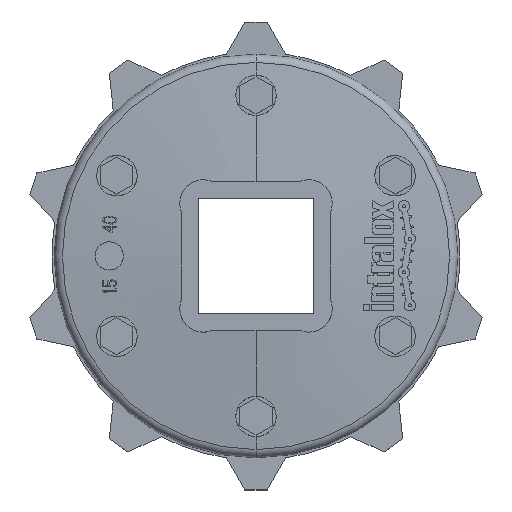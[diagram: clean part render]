
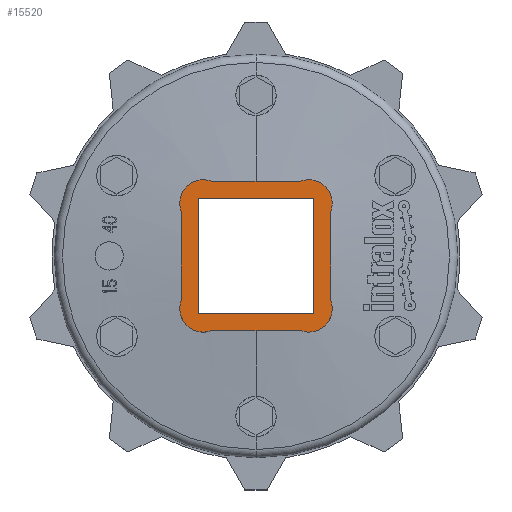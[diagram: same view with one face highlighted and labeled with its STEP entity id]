
A CAD part, top view. The second image highlights one B-rep face of the part: STEP entity #15520.
In plain terms, the highlighted planar face has unit normal (0, 0, 1) as drawn and (0, 1, 0) by its records, which use the part's own axes.
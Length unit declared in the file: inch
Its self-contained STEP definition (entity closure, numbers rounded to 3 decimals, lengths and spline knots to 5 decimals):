
#8543=DIRECTION('',(0.,0.,1.));
#8544=VECTOR('',#8543,1.21061);
#8545=CARTESIAN_POINT('',(-1.0175,0.67,-0.60531));
#8546=LINE('',#8545,#8544);
#8547=CARTESIAN_POINT('',(-0.718,0.67,-0.718));
#8548=DIRECTION('',(0.,1.,0.));
#8549=DIRECTION('',(0.352,0.,-0.936));
#8550=AXIS2_PLACEMENT_3D('',#8547,#8548,#8549);
#8552=DIRECTION('',(-1.,0.,0.));
#8553=VECTOR('',#8552,1.21061);
#8554=CARTESIAN_POINT('',(0.60531,0.67,-1.0175));
#8555=LINE('',#8554,#8553);
#8556=CARTESIAN_POINT('',(0.718,0.67,-0.718));
#8557=DIRECTION('',(0.,1.,0.));
#8558=DIRECTION('',(0.936,0.,0.352));
#8559=AXIS2_PLACEMENT_3D('',#8556,#8557,#8558);
#8561=DIRECTION('',(0.,0.,-1.));
#8562=VECTOR('',#8561,1.21061);
#8563=CARTESIAN_POINT('',(1.0175,0.67,0.60531));
#8564=LINE('',#8563,#8562);
#8565=CARTESIAN_POINT('',(0.718,0.67,0.718));
#8566=DIRECTION('',(0.,1.,0.));
#8567=DIRECTION('',(-0.352,0.,0.936));
#8568=AXIS2_PLACEMENT_3D('',#8565,#8566,#8567);
#8570=DIRECTION('',(1.,0.,0.));
#8571=VECTOR('',#8570,1.21061);
#8572=CARTESIAN_POINT('',(-0.60531,0.67,1.0175));
#8573=LINE('',#8572,#8571);
#8574=CARTESIAN_POINT('',(-0.718,0.67,0.718));
#8575=DIRECTION('',(0.,1.,0.));
#8576=DIRECTION('',(-0.936,0.,-0.352));
#8577=AXIS2_PLACEMENT_3D('',#8574,#8575,#8576);
#8579=DIRECTION('',(-1.,0.,0.));
#8580=VECTOR('',#8579,1.575);
#8581=CARTESIAN_POINT('',(0.7875,0.67,-0.7875));
#8582=LINE('',#8581,#8580);
#8583=DIRECTION('',(0.,0.,1.));
#8584=VECTOR('',#8583,1.575);
#8585=CARTESIAN_POINT('',(-0.7875,0.67,-0.7875));
#8586=LINE('',#8585,#8584);
#8587=DIRECTION('',(1.,0.,0.));
#8588=VECTOR('',#8587,1.575);
#8589=CARTESIAN_POINT('',(-0.7875,0.67,0.7875));
#8590=LINE('',#8589,#8588);
#8591=DIRECTION('',(0.,0.,-1.));
#8592=VECTOR('',#8591,1.575);
#8593=CARTESIAN_POINT('',(0.7875,0.67,0.7875));
#8594=LINE('',#8593,#8592);
#8865=CARTESIAN_POINT('',(-1.0175,0.67,-0.60531));
#8866=CARTESIAN_POINT('',(-1.0175,0.67,0.60531));
#8867=VERTEX_POINT('',#8865);
#8868=VERTEX_POINT('',#8866);
#8869=CARTESIAN_POINT('',(-0.60531,0.67,1.0175));
#8870=VERTEX_POINT('',#8869);
#8871=CARTESIAN_POINT('',(0.60531,0.67,1.0175));
#8872=VERTEX_POINT('',#8871);
#8873=CARTESIAN_POINT('',(1.0175,0.67,0.60531));
#8874=VERTEX_POINT('',#8873);
#8875=CARTESIAN_POINT('',(1.0175,0.67,-0.60531));
#8876=VERTEX_POINT('',#8875);
#8877=CARTESIAN_POINT('',(0.60531,0.67,-1.0175));
#8878=VERTEX_POINT('',#8877);
#8879=CARTESIAN_POINT('',(-0.60531,0.67,-1.0175));
#8880=VERTEX_POINT('',#8879);
#9625=CARTESIAN_POINT('',(0.7875,0.67,-0.7875));
#9626=VERTEX_POINT('',#9625);
#9627=CARTESIAN_POINT('',(-0.7875,0.67,-0.7875));
#9628=VERTEX_POINT('',#9627);
#9629=CARTESIAN_POINT('',(-0.7875,0.67,0.7875));
#9630=VERTEX_POINT('',#9629);
#9631=CARTESIAN_POINT('',(0.7875,0.67,0.7875));
#9632=VERTEX_POINT('',#9631);
#15495=CARTESIAN_POINT('',(0.,0.67,0.));
#15496=DIRECTION('',(0.,1.,0.));
#15497=DIRECTION('',(-1.,0.,0.));
#15498=AXIS2_PLACEMENT_3D('',#15495,#15496,#15497);
#15499=PLANE('',#15498);
#15500=ORIENTED_EDGE('',*,*,#15389,.F.);
#15501=ORIENTED_EDGE('',*,*,#15405,.F.);
#15502=ORIENTED_EDGE('',*,*,#15419,.F.);
#15503=ORIENTED_EDGE('',*,*,#15433,.F.);
#15504=ORIENTED_EDGE('',*,*,#15448,.F.);
#15505=ORIENTED_EDGE('',*,*,#15462,.F.);
#15506=ORIENTED_EDGE('',*,*,#15476,.F.);
#15507=ORIENTED_EDGE('',*,*,#15489,.F.);
#15508=EDGE_LOOP('',(#15500,#15501,#15502,#15503,#15504,#15505,#15506,#15507));
#15509=FACE_OUTER_BOUND('',#15508,.F.);
#15511=ORIENTED_EDGE('',*,*,#15510,.T.);
#15513=ORIENTED_EDGE('',*,*,#15512,.T.);
#15515=ORIENTED_EDGE('',*,*,#15514,.T.);
#15517=ORIENTED_EDGE('',*,*,#15516,.T.);
#15518=EDGE_LOOP('',(#15511,#15513,#15515,#15517));
#15519=FACE_BOUND('',#15518,.F.);
#15520=ADVANCED_FACE('',(#15509,#15519),#15499,.T.);
#8551=CIRCLE('',#8550,0.32);
#8560=CIRCLE('',#8559,0.32);
#8569=CIRCLE('',#8568,0.32);
#8578=CIRCLE('',#8577,0.32);
#15389=EDGE_CURVE('',#8867,#8868,#8546,.T.);
#15405=EDGE_CURVE('',#8880,#8867,#8551,.T.);
#15419=EDGE_CURVE('',#8878,#8880,#8555,.T.);
#15433=EDGE_CURVE('',#8876,#8878,#8560,.T.);
#15448=EDGE_CURVE('',#8874,#8876,#8564,.T.);
#15462=EDGE_CURVE('',#8872,#8874,#8569,.T.);
#15476=EDGE_CURVE('',#8870,#8872,#8573,.T.);
#15489=EDGE_CURVE('',#8868,#8870,#8578,.T.);
#15510=EDGE_CURVE('',#9626,#9628,#8582,.T.);
#15512=EDGE_CURVE('',#9628,#9630,#8586,.T.);
#15514=EDGE_CURVE('',#9630,#9632,#8590,.T.);
#15516=EDGE_CURVE('',#9632,#9626,#8594,.T.);
